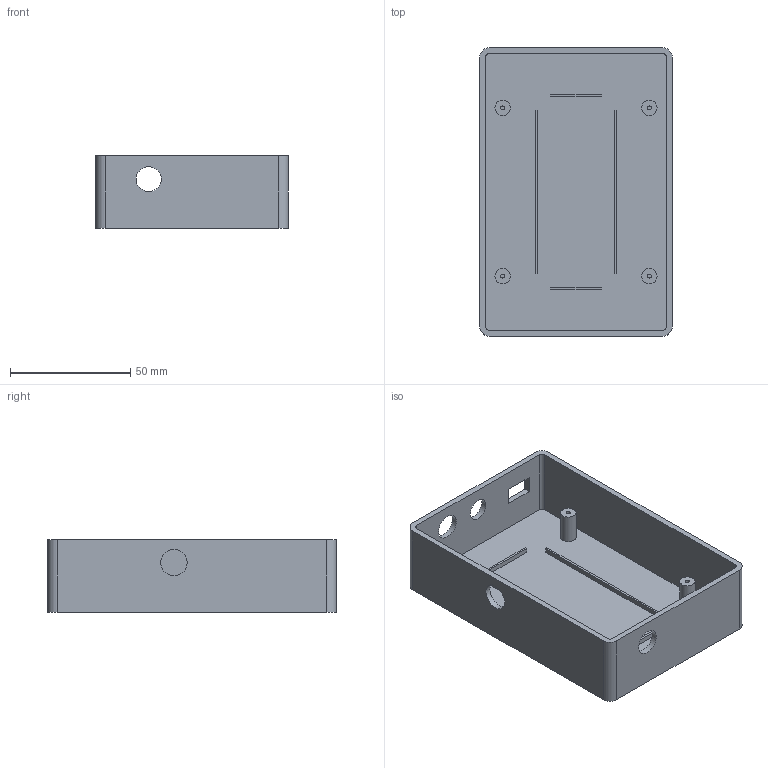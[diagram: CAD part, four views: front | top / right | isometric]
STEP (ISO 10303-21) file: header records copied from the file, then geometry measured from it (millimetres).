
FILE_DESCRIPTION(('Open CASCADE Model'),'2;1');
FILE_NAME('Open CASCADE Shape Model','2026-09-11T05:12:42',('Author'),( 'Open CASCADE'),'Open CASCADE STEP processor 7.9','Open CASCADE 7.9' ,'Unknown');
FILE_SCHEMA(('AUTOMOTIVE_DESIGN { 1 0 10303 214 1 1 1 1 }'));
Length unit declared in the file: millimetre
Products named in the file (1): Open CASCADE STEP translator 7.9 1
Bounding box: 80 x 120 x 30 mm (x, y, z)
Volume: 45898.5 mm3; surface area: 43038.8 mm2
Topology: 1 solids, 1 shells, 63 faces, 144 edges, 96 vertices
Faces by surface type: plane 43, cylinder 20
Full cylindrical faces by diameter (mm): 1.6 x4, 6.4 x4, 9.2 x1, 10.4 x2, 11 x1
Entity records: 3666 total; most frequent: CARTESIAN_POINT 732, DIRECTION 530, LINE 296, VECTOR 296, ORIENTED_EDGE 288, PCURVE 288, DEFINITIONAL_REPRESENTATION 288, EDGE_CURVE 144
